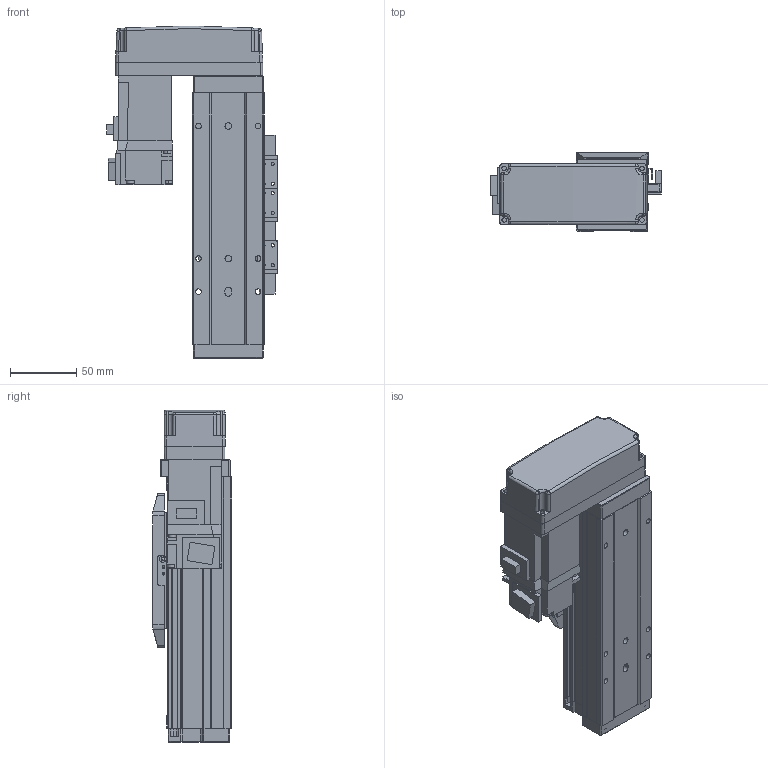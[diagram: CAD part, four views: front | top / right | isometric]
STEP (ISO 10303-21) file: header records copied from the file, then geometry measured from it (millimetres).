
FILE_DESCRIPTION (( 'STEP AP214' ), '1' );
FILE_NAME ('N_GRH5-50-BR-M10.step', '2025-03-14T10:57:40', ( '' ), ( '' ), 'SwSTEP 2.0', 'SolidWorks 2016', '' );
FILE_SCHEMA (( 'AUTOMOTIVE_DESIGN' ));
Length unit declared in the file: millimetre
Products named in the file (5): N_GRH5-GY-011^N_GRH5-50-BR-M10; N_GRH5-50-BR-M10; HF-KP13_100W_Motor^N_GRH5-50-BR-M10; N_GRH5-GY-004^N_GRH5-50-BR-M10; N_GRH5-BL-008^N_GRH5-50-BR-M10
Assembly tree (4 placements, depth 2):
  N_GRH5-50-BR-M10
    N_GRH5-GY-011^N_GRH5-50-BR-M10
    N_GRH5-GY-004^N_GRH5-50-BR-M10
    HF-KP13_100W_Motor^N_GRH5-50-BR-M10
    N_GRH5-BL-008^N_GRH5-50-BR-M10
Bounding box: 128.85 x 60 x 250.5 mm (x, y, z)
Volume: 776530.2 mm3; surface area: 172858.4 mm2
Topology: 4 solids, 5 shells, 914 faces, 2342 edges, 1481 vertices
Faces by surface type: plane 543, cylinder 296, cone 50, bspline 15, sphere 10
Entity records: 34933 total; most frequent: CARTESIAN_POINT 5503, DIRECTION 4691, ORIENTED_EDGE 4620, EDGE_CURVE 2310, LINE 1625, VECTOR 1625, AXIS2_PLACEMENT_3D 1533, VERTEX_POINT 1479
